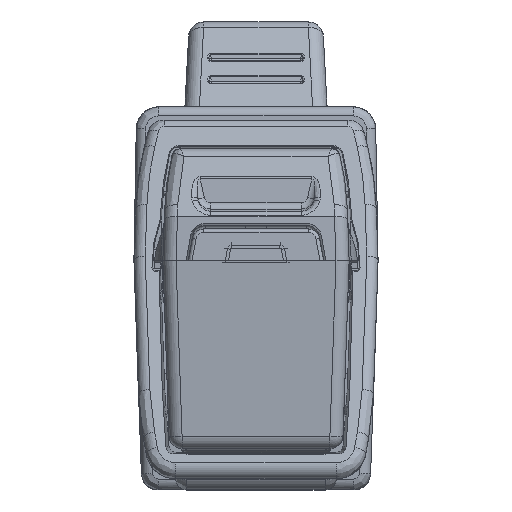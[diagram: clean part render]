
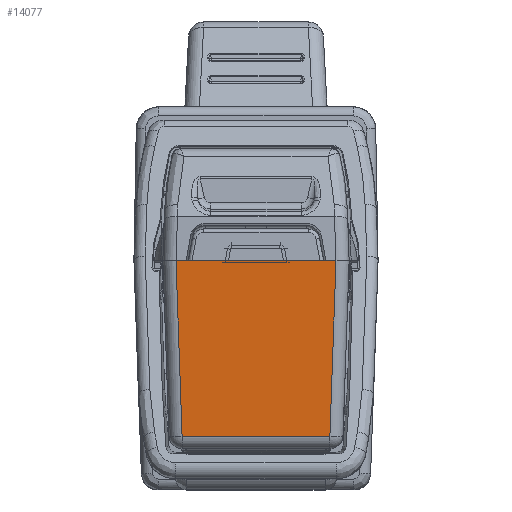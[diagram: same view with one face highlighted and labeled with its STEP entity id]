
A CAD part, front view. The second image highlights one B-rep face of the part: STEP entity #14077.
In plain terms, the highlighted planar face has unit normal (0, -0.999, -0.052) as drawn and (0, -0.052, 0.999) by its records, which use the part's own axes.
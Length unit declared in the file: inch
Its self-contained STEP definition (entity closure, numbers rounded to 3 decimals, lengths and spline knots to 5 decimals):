
#1684=DIRECTION('',(-1.,0.,0.));
#1685=VECTOR('',#1684,0.34053);
#1686=CARTESIAN_POINT('',(0.17027,0.,
0.49));
#1687=LINE('',#1686,#1685);
#1729=DIRECTION('',(0.035,-0.998,-0.052));
#1730=VECTOR('',#1729,0.46776);
#1731=CARTESIAN_POINT('',(-0.213,0.,0.49));
#1732=LINE('',#1731,#1730);
#1736=DIRECTION('',(-0.035,-0.998,-0.052));
#1737=VECTOR('',#1736,0.46776);
#1738=CARTESIAN_POINT('',(0.213,0.,0.49));
#1739=LINE('',#1738,#1737);
#1758=DIRECTION('',(1.,0.,0.));
#1759=VECTOR('',#1758,0.39339);
#1760=CARTESIAN_POINT('',(-0.19669,-0.46683,
0.46553));
#1761=LINE('',#1760,#1759);
#4565=DIRECTION('',(1.,0.,0.));
#4566=VECTOR('',#4565,0.04273);
#4567=CARTESIAN_POINT('',(-0.213,0.,0.49));
#4568=LINE('',#4567,#4566);
#5430=DIRECTION('',(-1.,0.,0.));
#5431=VECTOR('',#5430,0.04273);
#5432=CARTESIAN_POINT('',(0.213,0.,0.49));
#5433=LINE('',#5432,#5431);
#11727=CARTESIAN_POINT('',(0.17027,0.,
0.49));
#11729=VERTEX_POINT('',#11727);
#11751=CARTESIAN_POINT('',(0.213,0.,0.49));
#11752=VERTEX_POINT('',#11751);
#11838=CARTESIAN_POINT('',(0.19669,-0.46683,
0.46553));
#11839=VERTEX_POINT('',#11838);
#12101=CARTESIAN_POINT('',(-0.17027,0.,
0.49));
#12103=VERTEX_POINT('',#12101);
#12125=CARTESIAN_POINT('',(-0.213,0.,0.49));
#12126=VERTEX_POINT('',#12125);
#12131=CARTESIAN_POINT('',(-0.19669,-0.46683,
0.46553));
#12132=VERTEX_POINT('',#12131);
#14059=CARTESIAN_POINT('',(-1.06609,-0.51,0.46327));
#14060=DIRECTION('',(0.,-0.052,0.999));
#14061=DIRECTION('',(1.,0.,0.));
#14062=AXIS2_PLACEMENT_3D('',#14059,#14060,#14061);
#14063=PLANE('',#14062);
#14065=ORIENTED_EDGE('',*,*,#14064,.F.);
#14067=ORIENTED_EDGE('',*,*,#14066,.F.);
#14069=ORIENTED_EDGE('',*,*,#14068,.T.);
#14070=ORIENTED_EDGE('',*,*,#14045,.F.);
#14072=ORIENTED_EDGE('',*,*,#14071,.F.);
#14074=ORIENTED_EDGE('',*,*,#14073,.T.);
#14075=EDGE_LOOP('',(#14065,#14067,#14069,#14070,#14072,#14074));
#14076=FACE_OUTER_BOUND('',#14075,.F.);
#14077=ADVANCED_FACE('',(#14076),#14063,.T.);
#14045=EDGE_CURVE('',#11729,#12103,#1687,.T.);
#14064=EDGE_CURVE('',#12132,#11839,#1761,.T.);
#14066=EDGE_CURVE('',#12126,#12132,#1732,.T.);
#14068=EDGE_CURVE('',#12126,#12103,#4568,.T.);
#14071=EDGE_CURVE('',#11752,#11729,#5433,.T.);
#14073=EDGE_CURVE('',#11752,#11839,#1739,.T.);
